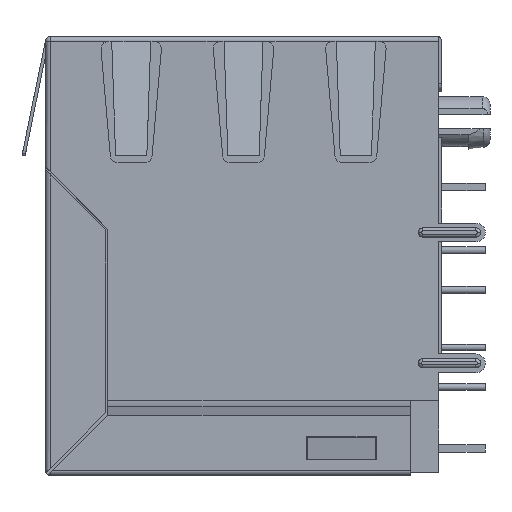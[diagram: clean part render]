
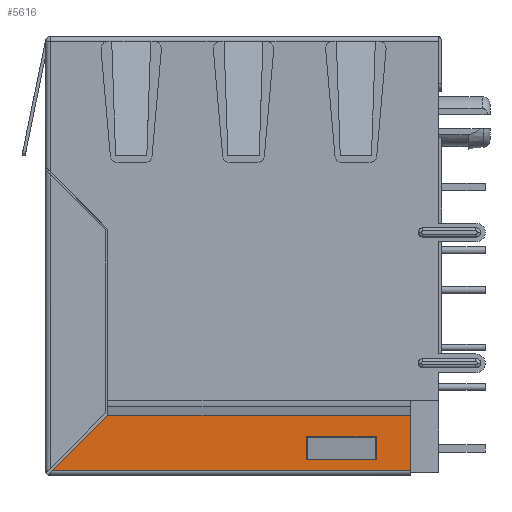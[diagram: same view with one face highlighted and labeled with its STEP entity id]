
A CAD part, left-side view. The second image highlights one B-rep face of the part: STEP entity #5616.
In plain terms, the highlighted planar face has unit normal (-1, 0, 0).
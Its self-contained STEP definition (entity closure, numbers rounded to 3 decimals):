
#60 = LINE ( 'NONE', #21879, #23938 ) ;
#907 = ORIENTED_EDGE ( 'NONE', *, *, #22907, .F. ) ;
#1064 = DIRECTION ( 'NONE',  ( 0., 1., 0. ) ) ;
#1415 = CARTESIAN_POINT ( 'NONE',  ( -7.348, 14.778, 14.075 ) ) ;
#3022 = VERTEX_POINT ( 'NONE', #6475 ) ;
#3927 = ORIENTED_EDGE ( 'NONE', *, *, #27917, .F. ) ;
#4167 = CARTESIAN_POINT ( 'NONE',  ( -7.348, -1.972, -11.575 ) ) ;
#4652 = DIRECTION ( 'NONE',  ( 0., 0., 1. ) ) ;
#4809 = VECTOR ( 'NONE', #16720, 1000. ) ;
#5479 = LINE ( 'NONE', #35245, #7502 ) ;
#5555 = CARTESIAN_POINT ( 'NONE',  ( -7.348, 14.778, -13.775 ) ) ;
#5616 = ADVANCED_FACE ( 'NONE', ( #25945, #28298 ), #25764, .F. ) ;
#6002 = LINE ( 'NONE', #16989, #14350 ) ;
#6475 = CARTESIAN_POINT ( 'NONE',  ( -7.348, 14.33, -13.775 ) ) ;
#7329 = VERTEX_POINT ( 'NONE', #27801 ) ;
#7373 = ORIENTED_EDGE ( 'NONE', *, *, #34871, .F. ) ;
#7440 = CARTESIAN_POINT ( 'NONE',  ( -7.348, -1.972, -13.075 ) ) ;
#7502 = VECTOR ( 'NONE', #13397, 1000. ) ;
#9632 = CARTESIAN_POINT ( 'NONE',  ( -7.348, -6.422, -11.575 ) ) ;
#9659 = CARTESIAN_POINT ( 'NONE',  ( -7.348, -8.622, -10.223 ) ) ;
#10044 = CARTESIAN_POINT ( 'NONE',  ( -7.348, -6.422, -13.075 ) ) ;
#10384 = VECTOR ( 'NONE', #18514, 1000. ) ;
#12386 = DIRECTION ( 'NONE',  ( 1., 0., 0. ) ) ;
#12812 = DIRECTION ( 'NONE',  ( 0., -1., 0. ) ) ;
#13397 = DIRECTION ( 'NONE',  ( 0., 1., 0. ) ) ;
#13565 = DIRECTION ( 'NONE',  ( 0., -1., 0. ) ) ;
#14136 = EDGE_CURVE ( 'NONE', #3022, #31144, #20137, .T. ) ;
#14350 = VECTOR ( 'NONE', #28011, 1000. ) ;
#15452 = LINE ( 'NONE', #26466, #10384 ) ;
#15978 = ORIENTED_EDGE ( 'NONE', *, *, #34073, .F. ) ;
#16720 = DIRECTION ( 'NONE',  ( 0., -1., 0. ) ) ;
#16880 = VERTEX_POINT ( 'NONE', #9632 ) ;
#16989 = CARTESIAN_POINT ( 'NONE',  ( -7.348, 14.969, -14.415 ) ) ;
#18356 = CARTESIAN_POINT ( 'NONE',  ( -7.348, -8.622, -13.775 ) ) ;
#18452 = EDGE_LOOP ( 'NONE', ( #21633, #3927, #19506, #15978 ) ) ;
#18514 = DIRECTION ( 'NONE',  ( 0., 0., -1. ) ) ;
#18953 = ORIENTED_EDGE ( 'NONE', *, *, #14136, .T. ) ;
#19506 = ORIENTED_EDGE ( 'NONE', *, *, #21486, .F. ) ;
#19620 = CARTESIAN_POINT ( 'NONE',  ( -7.348, -6.422, -13.075 ) ) ;
#20137 = LINE ( 'NONE', #5555, #4809 ) ;
#20643 = CARTESIAN_POINT ( 'NONE',  ( -7.348, -1.972, -13.075 ) ) ;
#21486 = EDGE_CURVE ( 'NONE', #23865, #16880, #23932, .T. ) ;
#21633 = ORIENTED_EDGE ( 'NONE', *, *, #29464, .F. ) ;
#21879 = CARTESIAN_POINT ( 'NONE',  ( -7.348, 11.553, -10.223 ) ) ;
#22907 = EDGE_CURVE ( 'NONE', #7329, #25259, #60, .T. ) ;
#22910 = VECTOR ( 'NONE', #4652, 1000. ) ;
#23865 = VERTEX_POINT ( 'NONE', #19620 ) ;
#23932 = LINE ( 'NONE', #10044, #22910 ) ;
#23938 = VECTOR ( 'NONE', #13565, 1000. ) ;
#24193 = LINE ( 'NONE', #7440, #28182 ) ;
#25259 = VERTEX_POINT ( 'NONE', #9659 ) ;
#25764 = PLANE ( 'NONE',  #34999 ) ;
#25945 = FACE_BOUND ( 'NONE', #18452, .T. ) ;
#26156 = DIRECTION ( 'NONE',  ( 0., 0., -1. ) ) ;
#26466 = CARTESIAN_POINT ( 'NONE',  ( -7.348, -8.622, -14.075 ) ) ;
#26690 = VERTEX_POINT ( 'NONE', #20643 ) ;
#27801 = CARTESIAN_POINT ( 'NONE',  ( -7.348, 10.778, -10.223 ) ) ;
#27917 = EDGE_CURVE ( 'NONE', #16880, #32438, #5479, .T. ) ;
#28011 = DIRECTION ( 'NONE',  ( 0., -0.707, 0.707 ) ) ;
#28182 = VECTOR ( 'NONE', #12812, 1000. ) ;
#28298 = FACE_OUTER_BOUND ( 'NONE', #35102, .T. ) ;
#29464 = EDGE_CURVE ( 'NONE', #32438, #26690, #34464, .T. ) ;
#29646 = CARTESIAN_POINT ( 'NONE',  ( -7.348, -1.972, -11.575 ) ) ;
#31144 = VERTEX_POINT ( 'NONE', #18356 ) ;
#32438 = VERTEX_POINT ( 'NONE', #29646 ) ;
#33714 = ORIENTED_EDGE ( 'NONE', *, *, #33864, .F. ) ;
#33864 = EDGE_CURVE ( 'NONE', #3022, #7329, #6002, .T. ) ;
#34073 = EDGE_CURVE ( 'NONE', #26690, #23865, #24193, .T. ) ;
#34078 = VECTOR ( 'NONE', #26156, 1000. ) ;
#34464 = LINE ( 'NONE', #4167, #34078 ) ;
#34871 = EDGE_CURVE ( 'NONE', #25259, #31144, #15452, .T. ) ;
#34999 = AXIS2_PLACEMENT_3D ( 'NONE', #1415, #12386, #1064 ) ;
#35102 = EDGE_LOOP ( 'NONE', ( #33714, #18953, #7373, #907 ) ) ;
#35245 = CARTESIAN_POINT ( 'NONE',  ( -7.348, -6.422, -11.575 ) ) ;
